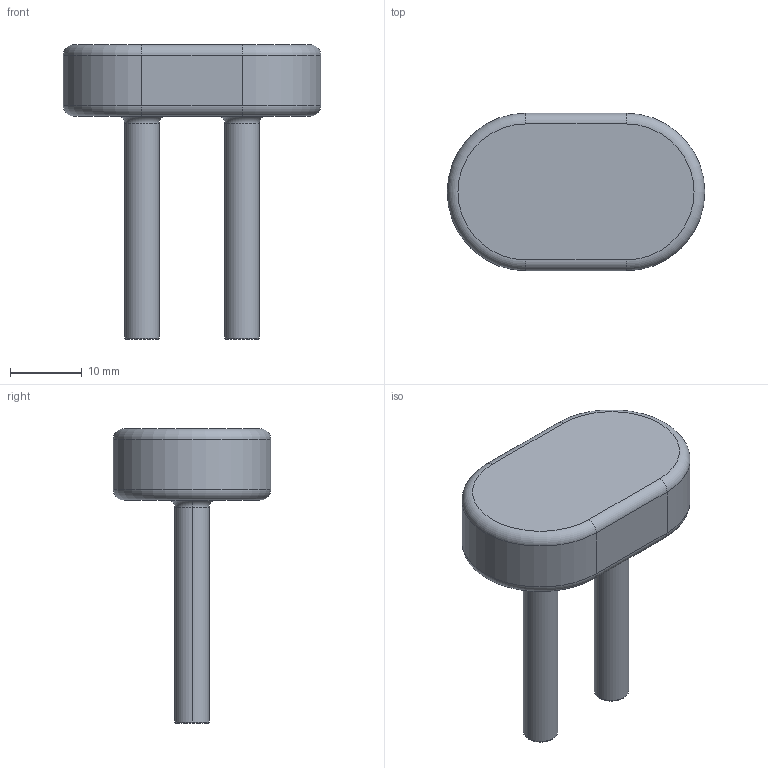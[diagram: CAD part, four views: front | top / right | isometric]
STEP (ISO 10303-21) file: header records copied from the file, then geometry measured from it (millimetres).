
FILE_DESCRIPTION(('CATIA V5 STEP Exchange'),'2;1');
FILE_NAME('D:\姚明阳\装弹簧治具\升降阀装塔簧压装块.stp','2021-12-15T06:17:25+00:00',('none'),('none'),'CATIA Version 5 Release 21 GA (IN-10)','CATIA V5 STEP AP214','none');
FILE_SCHEMA(('AUTOMOTIVE_DESIGN { 1 0 10303 214 1 1 1 1 }'));
Length unit declared in the file: millimetre
Products named in the file (1): Part2
Bounding box: 36 x 22 x 41.2 mm (x, y, z)
Volume: 7925.6 mm3; surface area: 3146.7 mm2
Topology: 1 solids, 1 shells, 28 faces, 56 edges, 32 vertices
Faces by surface type: torus 12, cylinder 10, plane 6
Entity records: 699 total; most frequent: CARTESIAN_POINT 114, ORIENTED_EDGE 112, DIRECTION 106, AXIS2_PLACEMENT_3D 66, EDGE_CURVE 56, CIRCLE 40, VERTEX_POINT 32, EDGE_LOOP 30
